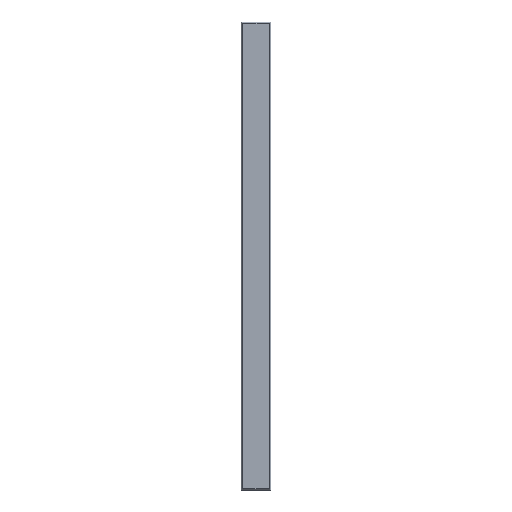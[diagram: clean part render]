
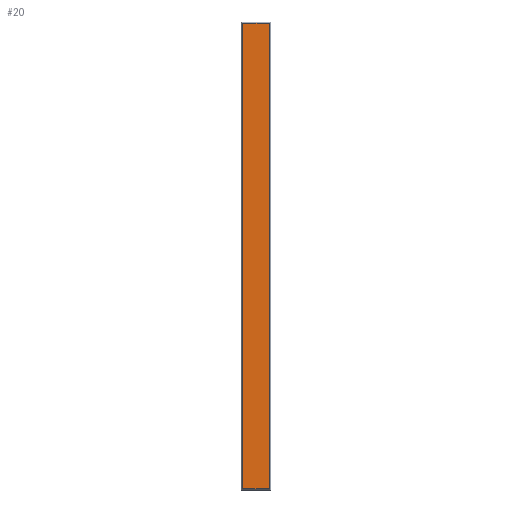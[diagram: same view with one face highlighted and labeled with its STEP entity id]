
A CAD part, front view. The second image highlights one B-rep face of the part: STEP entity #20.
In plain terms, the highlighted planar face has unit normal (0, -1, 0).
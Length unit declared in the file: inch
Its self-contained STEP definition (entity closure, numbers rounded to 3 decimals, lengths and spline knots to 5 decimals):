
#20=ADVANCED_FACE('',(#30),#142,.T.);
#30=FACE_OUTER_BOUND('',#40,.T.);
#40=EDGE_LOOP('',(#68,#69,#70,#71));
#68=ORIENTED_EDGE('',*,*,#84,.F.);
#69=ORIENTED_EDGE('',*,*,#95,.F.);
#70=ORIENTED_EDGE('',*,*,#91,.F.);
#71=ORIENTED_EDGE('',*,*,#88,.F.);
#84=EDGE_CURVE('',#124,#125,#104,.T.);
#88=EDGE_CURVE('',#125,#128,#108,.T.);
#91=EDGE_CURVE('',#128,#130,#111,.T.);
#95=EDGE_CURVE('',#130,#124,#115,.T.);
#104=B_SPLINE_CURVE_WITH_KNOTS('',1,(#285,#286),.UNSPECIFIED.,.F.,.F.,(2,
2),(0.,95.5),.UNSPECIFIED.);
#108=B_SPLINE_CURVE_WITH_KNOTS('',1,(#293,#294),.UNSPECIFIED.,.F.,.F.,(2,
2),(0.,5.5),.UNSPECIFIED.);
#111=B_SPLINE_CURVE_WITH_KNOTS('',1,(#299,#300),.UNSPECIFIED.,.F.,.F.,(2,
2),(0.,95.5),.UNSPECIFIED.);
#115=B_SPLINE_CURVE_WITH_KNOTS('',1,(#307,#308),.UNSPECIFIED.,.F.,.F.,(2,
2),(0.,5.5),.UNSPECIFIED.);
#124=VERTEX_POINT('',#273);
#125=VERTEX_POINT('',#274);
#128=VERTEX_POINT('',#277);
#130=VERTEX_POINT('',#279);
#142=PLANE('',#243);
#243=AXIS2_PLACEMENT_3D('',#269,#256,$);
#256=DIRECTION('',(0.,-1.,0.));
#269=CARTESIAN_POINT('',(-3.30472,-0.5,57.30472));
#273=CARTESIAN_POINT('',(-2.75,-0.5,-47.75));
#274=CARTESIAN_POINT('',(-2.75,-0.5,47.75));
#277=CARTESIAN_POINT('',(2.75,-0.5,47.75));
#279=CARTESIAN_POINT('',(2.75,-0.5,-47.75));
#285=CARTESIAN_POINT('',(-2.75,-0.5,-47.75));
#286=CARTESIAN_POINT('',(-2.75,-0.5,47.75));
#293=CARTESIAN_POINT('',(-2.75,-0.5,47.75));
#294=CARTESIAN_POINT('',(2.75,-0.5,47.75));
#299=CARTESIAN_POINT('',(2.75,-0.5,47.75));
#300=CARTESIAN_POINT('',(2.75,-0.5,-47.75));
#307=CARTESIAN_POINT('',(2.75,-0.5,-47.75));
#308=CARTESIAN_POINT('',(-2.75,-0.5,-47.75));
